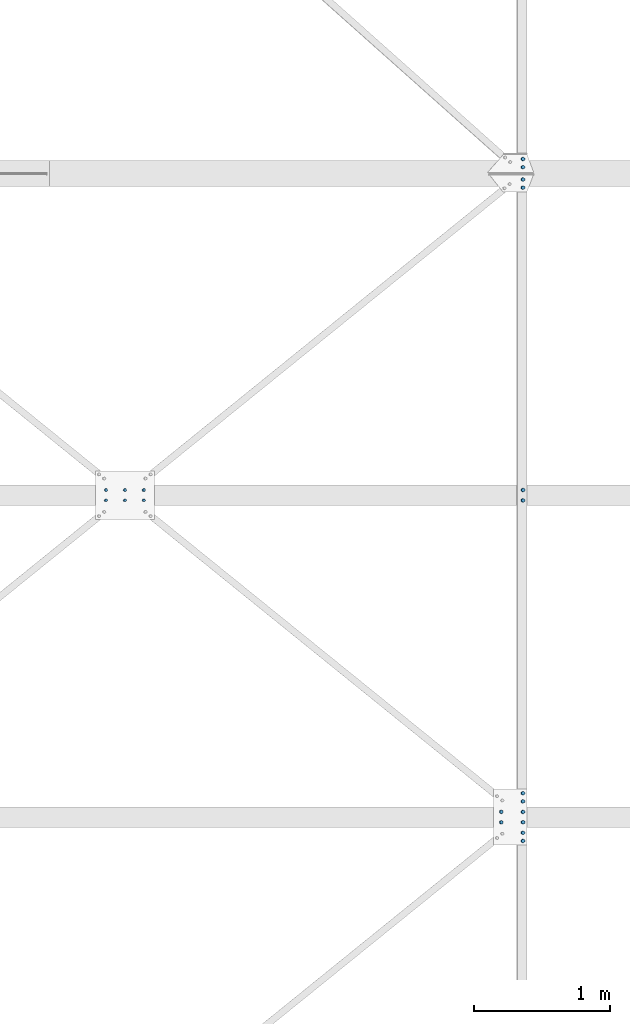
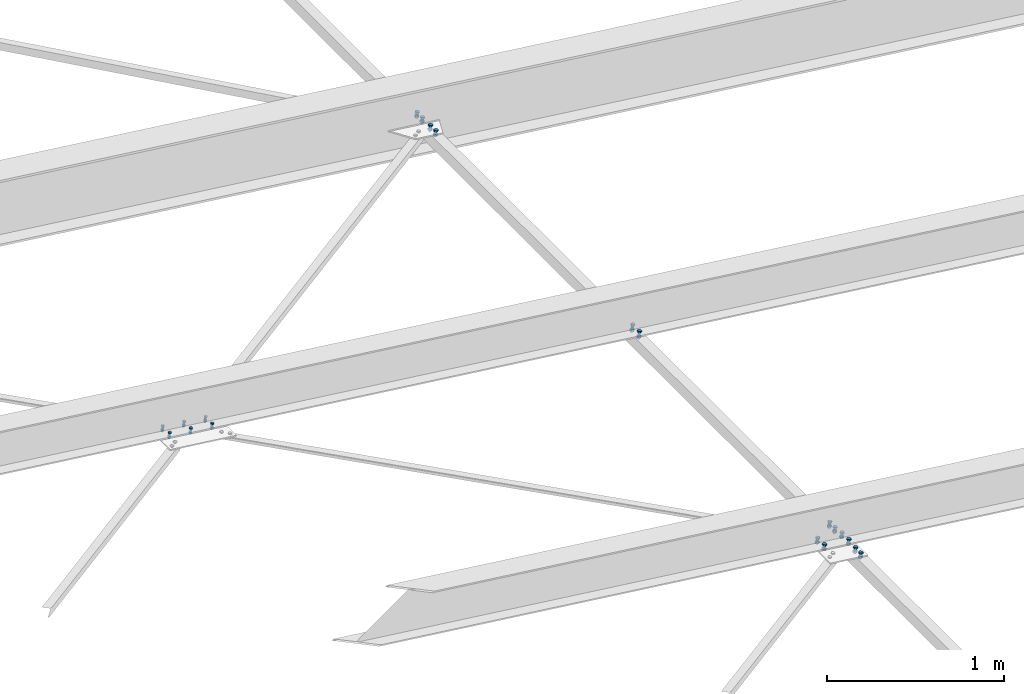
# One storey, part 150 of 3134: 7 mechanical fasteners, 5 elements without a shape of their own.
"""IFC2X3 building model written with IfcOpenShell, lengths in millimetres."""

from ifc_helpers import new_model, si_unit, frame, origin_with_axes, place, context, subcontext, project, spatial, faceted_brep, source, transform, mapped, material, type_object, element, aggregate, save


model = new_model("IFC2X3")

# Units and contexts
model_context = context("Model", 3, precision=1e-05, world=origin_with_axes())
body_context = subcontext(model_context, "Body", "Model", "MODEL_VIEW")
ifc_project = project(units=[si_unit("LENGTHUNIT", "METRE", prefix="MILLI"), si_unit("AREAUNIT", "SQUARE_METRE"), si_unit("VOLUMEUNIT", "CUBIC_METRE"), si_unit("MASSUNIT", "GRAM", prefix="KILO"), si_unit("TIMEUNIT", "SECOND"), si_unit("PLANEANGLEUNIT", "RADIAN"), si_unit("SOLIDANGLEUNIT", "STERADIAN"), si_unit("THERMODYNAMICTEMPERATUREUNIT", "DEGREE_CELSIUS"), si_unit("LUMINOUSINTENSITYUNIT", "LUMEN")], contexts=[model_context])

# Site, building, storey
site_placement = place(None, origin_with_axes())
site = spatial("IfcSite", under=ifc_project, at=site_placement, CompositionType="ELEMENT")
building_placement = place(site_placement, origin_with_axes())
building = spatial("IfcBuilding", under=site, at=building_placement, Name="Undefined", CompositionType="ELEMENT")
storey_placement = place(building_placement, origin_with_axes())
storey = spatial("IfcBuildingStorey", under=building, at=storey_placement, Name="Undefined", CompositionType="ELEMENT", Elevation=0.0)

# Assembly, mechanical fastener
assembly_1_placement = place(storey_placement, origin_with_axes())
assembly_1 = element("IfcElementAssembly", 1, at=assembly_1_placement, inside=storey, Name="300", AssemblyPlace="NOTDEFINED", PredefinedType="RIGID_FRAME")
ifc_material = material(Name="8.8")
mechanical_fastener_type = type_object("IfcMechanicalFastenerType", Name="Bolt assembly")
shared_shape_1 = source(origin_with_axes(), body_context, "Body", "Brep", [
    faceted_brep([(13.856406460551, -19.199990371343, 0.0), (6.92820323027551, -19.199990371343, 12.0), (-6.92820323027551, -19.199990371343, 12.0), (-13.856406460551, -19.199990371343, 1.69692038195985e-15), (-6.92820323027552, -19.199990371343, -12.0), (6.9282032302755, -19.199990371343, -12.0), (6.9282032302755, -9.19999037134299, -12.0), (-6.92820323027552, -9.19999037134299, -12.0), (-13.856406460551, -9.19999037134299, 1.69692038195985e-15), (-6.92820323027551, -9.19999037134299, 12.0), (6.92820323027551, -9.19999037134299, 12.0), (13.856406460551, -9.19999037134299, 0.0), (8.0, -9.19999037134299, 0.0), (6.92820323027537, -9.19999037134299, 4.00000000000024), (3.99999999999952, -9.19999037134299, 6.92820323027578), (-8.29068785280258e-13, -9.19999037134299, 8.0), (-4.00000000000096, -9.19999037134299, 6.92820323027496), (-6.9282032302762, -9.19999037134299, 3.99999999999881), (-8.0, -9.19999037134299, -1.65813757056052e-12), (-6.92820323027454, -9.19999037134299, -4.00000000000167), (-3.99999999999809, -9.19999037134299, -6.92820323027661), (2.47832457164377e-12, -9.19999037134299, -8.0), (4.00000000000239, -9.19999037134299, -6.92820323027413), (6.92820323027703, -9.19999037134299, -3.99999999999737), (6.92820323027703, 25.800009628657, -3.99999999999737), (4.00000000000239, 25.800009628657, -6.92820323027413), (2.47832457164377e-12, 25.800009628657, -8.0), (-3.99999999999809, 25.800009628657, -6.92820323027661), (-6.92820323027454, 25.800009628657, -4.00000000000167), (-8.0, 25.800009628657, -1.65813757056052e-12), (-6.9282032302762, 25.800009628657, 3.99999999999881), (-4.00000000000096, 25.800009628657, 6.92820323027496), (-8.29068785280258e-13, 25.800009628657, 8.0), (3.99999999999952, 25.800009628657, 6.92820323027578), (6.92820323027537, 25.800009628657, 4.00000000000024), (8.0, 25.800009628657, 0.0), (13.856406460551, 8.00000637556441, 0.0), (6.92820323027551, 8.00000637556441, 12.0), (-6.92820323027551, 8.00000637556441, 12.0), (-13.856406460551, 8.00000637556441, 1.69692038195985e-15), (-6.92820323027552, 8.00000637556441, -12.0), (6.9282032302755, 8.00000637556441, -12.0), (6.9282032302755, 21.0000063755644, -12.0), (-6.92820323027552, 21.0000063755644, -12.0), (-13.856406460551, 21.0000063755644, 1.69692038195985e-15), (-6.92820323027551, 21.0000063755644, 12.0), (6.92820323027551, 21.0000063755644, 12.0), (13.856406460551, 21.0000063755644, 0.0)], [[[0, 1, 2, 3, 4, 5]], [[6, 7, 8, 9, 10, 11]], [[0, 11, 10, 1]], [[1, 10, 9, 2]], [[2, 9, 8, 3]], [[3, 8, 7, 4]], [[4, 7, 6, 5]], [[5, 6, 11, 0]], [[12, 13, 14, 15, 16, 17, 18, 19, 20, 21, 22, 23]], [[24, 25, 26, 27, 28, 29, 30, 31, 32, 33, 34, 35]], [[12, 35, 34, 13]], [[13, 34, 33, 14]], [[14, 33, 32, 15]], [[15, 32, 31, 16]], [[16, 31, 30, 17]], [[17, 30, 29, 18]], [[18, 29, 28, 19]], [[19, 28, 27, 20]], [[20, 27, 26, 21]], [[21, 26, 25, 22]], [[22, 25, 24, 23]], [[23, 24, 35, 12]], [[36, 37, 38, 39, 40, 41]], [[42, 43, 44, 45, 46, 47]], [[36, 47, 46, 37]], [[37, 46, 45, 38]], [[38, 45, 44, 39]], [[39, 44, 43, 40]], [[40, 43, 42, 41]], [[41, 42, 47, 36]]]),
    faceted_brep([(9.0, -0.1, 0.0), (7.79422863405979, -0.1, 4.50000000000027), (4.49999999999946, -0.1, 7.79422863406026), (-9.3270238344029e-13, -0.1, 9.0), (-4.50000000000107, -0.1, 7.79422863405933), (-7.79422863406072, -0.1, 4.49999999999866), (-9.0, -0.1, -1.86540476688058e-12), (-7.79422863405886, -0.1, -4.50000000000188), (-4.49999999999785, -0.1, -7.79422863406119), (2.78811514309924e-12, -0.1, -9.0), (4.50000000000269, -0.1, -7.7942286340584), (7.79422863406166, -0.1, -4.49999999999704), (7.79422863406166, 8.00000000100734, -4.49999999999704), (4.50000000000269, 8.00000000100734, -7.7942286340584), (2.78811514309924e-12, 8.00000000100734, -9.0), (-4.49999999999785, 8.00000000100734, -7.79422863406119), (-7.79422863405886, 8.00000000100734, -4.50000000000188), (-9.0, 8.00000000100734, -1.86540476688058e-12), (-7.79422863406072, 8.00000000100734, 4.49999999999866), (-4.50000000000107, 8.00000000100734, 7.79422863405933), (-9.3270238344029e-13, 8.00000000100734, 9.0), (4.49999999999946, 8.00000000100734, 7.79422863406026), (7.79422863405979, 8.00000000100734, 4.50000000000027), (9.0, 8.00000000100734, 0.0), (9.0, -9.09999037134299, 0.0), (7.79422863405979, -9.09999037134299, 4.50000000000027), (4.49999999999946, -9.09999037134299, 7.79422863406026), (-9.3270238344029e-13, -9.09999037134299, 9.0), (-4.50000000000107, -9.09999037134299, 7.79422863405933), (-7.79422863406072, -9.09999037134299, 4.49999999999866), (-9.0, -9.09999037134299, -1.86540476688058e-12), (-7.79422863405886, -9.09999037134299, -4.50000000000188), (-4.49999999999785, -9.09999037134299, -7.79422863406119), (2.78811514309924e-12, -9.09999037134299, -9.0), (4.50000000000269, -9.09999037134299, -7.7942286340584), (7.79422863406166, -9.09999037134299, -4.49999999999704), (7.79422863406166, 0.100000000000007, -4.49999999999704), (4.50000000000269, 0.100000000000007, -7.7942286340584), (2.78811514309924e-12, 0.100000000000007, -9.0), (-4.49999999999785, 0.100000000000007, -7.79422863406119), (-7.79422863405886, 0.100000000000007, -4.50000000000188), (-9.0, 0.100000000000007, -1.86540476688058e-12), (-7.79422863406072, 0.100000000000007, 4.49999999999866), (-4.50000000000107, 0.100000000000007, 7.79422863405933), (-9.3270238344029e-13, 0.100000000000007, 9.0), (4.49999999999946, 0.100000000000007, 7.79422863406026), (7.79422863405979, 0.100000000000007, 4.50000000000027), (9.0, 0.100000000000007, 0.0)], [[[0, 1, 2, 3, 4, 5, 6, 7, 8, 9, 10, 11]], [[12, 13, 14, 15, 16, 17, 18, 19, 20, 21, 22, 23]], [[0, 23, 22, 1]], [[1, 22, 21, 2]], [[2, 21, 20, 3]], [[3, 20, 19, 4]], [[4, 19, 18, 5]], [[5, 18, 17, 6]], [[6, 17, 16, 7]], [[7, 16, 15, 8]], [[8, 15, 14, 9]], [[9, 14, 13, 10]], [[10, 13, 12, 11]], [[11, 12, 23, 0]], [[24, 25, 26, 27, 28, 29, 30, 31, 32, 33, 34, 35]], [[36, 37, 38, 39, 40, 41, 42, 43, 44, 45, 46, 47]], [[24, 47, 46, 25]], [[25, 46, 45, 26]], [[26, 45, 44, 27]], [[27, 44, 43, 28]], [[28, 43, 42, 29]], [[29, 42, 41, 30]], [[30, 41, 40, 31]], [[31, 40, 39, 32]], [[32, 39, 38, 33]], [[33, 38, 37, 34]], [[34, 37, 36, 35]], [[35, 36, 47, 24]]]),
])
mechanical_fastener_1_placement = place(assembly_1_placement, frame((49958.5751064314, 14692.0, 4816.43281405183), z_axis=(-0.992623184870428, 0.0, 0.121240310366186), x_axis=(0.0, 1.0, 0.0)))
mechanical_fastener_1 = element("IfcMechanicalFastener", 2, at=mechanical_fastener_1_placement, type_object=mechanical_fastener_type, material=ifc_material, Name="Bolt assembly", NominalDiameter=16.0, NominalLength=35.0, context=body_context, shape_type="MappedRepresentation", body=[
    mapped(shared_shape_1, transform((0.0, -5.32963895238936e-10, -79.9999999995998))),
    mapped(shared_shape_1, transform((76.0, -5.32963895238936e-10, -79.9999999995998))),
    mapped(shared_shape_1, transform((0.0, 5.3114490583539e-10, 79.9999999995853))),
    mapped(shared_shape_1, transform((76.0, 5.3114490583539e-10, 79.9999999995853))),
])
aggregate(assembly_1, [mechanical_fastener_1])

assembly_2_placement = place(storey_placement, origin_with_axes())
assembly_2 = element("IfcElementAssembly", 3, at=assembly_2_placement, inside=storey, AssemblyPlace="NOTDEFINED", PredefinedType="RIGID_FRAME")
shared_shape_2 = source(origin_with_axes(), body_context, "Body", "Brep", [
    faceted_brep([(13.856406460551, -19.199990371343, 0.0), (6.92820323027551, -19.199990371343, 12.0), (-6.92820323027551, -19.199990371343, 12.0), (-13.856406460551, -19.199990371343, 1.69692038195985e-15), (-6.92820323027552, -19.199990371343, -12.0), (6.9282032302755, -19.199990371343, -12.0), (6.9282032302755, -9.19999037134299, -12.0), (-6.92820323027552, -9.19999037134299, -12.0), (-13.856406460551, -9.19999037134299, 1.69692038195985e-15), (-6.92820323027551, -9.19999037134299, 12.0), (6.92820323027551, -9.19999037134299, 12.0), (13.856406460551, -9.19999037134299, 0.0), (8.0, -9.19999037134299, 0.0), (6.92820323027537, -9.19999037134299, 4.00000000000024), (3.99999999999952, -9.19999037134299, 6.92820323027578), (-8.29068785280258e-13, -9.19999037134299, 8.0), (-4.00000000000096, -9.19999037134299, 6.92820323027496), (-6.9282032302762, -9.19999037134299, 3.99999999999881), (-8.0, -9.19999037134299, -1.65813757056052e-12), (-6.92820323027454, -9.19999037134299, -4.00000000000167), (-3.99999999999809, -9.19999037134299, -6.92820323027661), (2.47832457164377e-12, -9.19999037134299, -8.0), (4.00000000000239, -9.19999037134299, -6.92820323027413), (6.92820323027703, -9.19999037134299, -3.99999999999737), (6.92820323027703, 35.8000002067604, -3.99999999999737), (4.00000000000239, 35.8000002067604, -6.92820323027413), (2.47832457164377e-12, 35.8000002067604, -8.0), (-3.99999999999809, 35.8000002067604, -6.92820323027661), (-6.92820323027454, 35.8000002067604, -4.00000000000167), (-8.0, 35.8000002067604, -1.65813757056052e-12), (-6.9282032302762, 35.8000002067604, 3.99999999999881), (-4.00000000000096, 35.8000002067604, 6.92820323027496), (-8.29068785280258e-13, 35.8000002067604, 8.0), (3.99999999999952, 35.8000002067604, 6.92820323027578), (6.92820323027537, 35.8000002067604, 4.00000000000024), (8.0, 35.8000002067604, 0.0), (13.856406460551, 14.9999995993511, 0.0), (6.92820323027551, 14.9999995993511, 12.0), (-6.92820323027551, 14.9999995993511, 12.0), (-13.856406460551, 14.9999995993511, 1.69692038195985e-15), (-6.92820323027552, 14.9999995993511, -12.0), (6.9282032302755, 14.9999995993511, -12.0), (6.9282032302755, 27.9999995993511, -12.0), (-6.92820323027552, 27.9999995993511, -12.0), (-13.856406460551, 27.9999995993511, 1.69692038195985e-15), (-6.92820323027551, 27.9999995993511, 12.0), (6.92820323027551, 27.9999995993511, 12.0), (13.856406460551, 27.9999995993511, 0.0)], [[[0, 1, 2, 3, 4, 5]], [[6, 7, 8, 9, 10, 11]], [[0, 11, 10, 1]], [[1, 10, 9, 2]], [[2, 9, 8, 3]], [[3, 8, 7, 4]], [[4, 7, 6, 5]], [[5, 6, 11, 0]], [[12, 13, 14, 15, 16, 17, 18, 19, 20, 21, 22, 23]], [[24, 25, 26, 27, 28, 29, 30, 31, 32, 33, 34, 35]], [[12, 35, 34, 13]], [[13, 34, 33, 14]], [[14, 33, 32, 15]], [[15, 32, 31, 16]], [[16, 31, 30, 17]], [[17, 30, 29, 18]], [[18, 29, 28, 19]], [[19, 28, 27, 20]], [[20, 27, 26, 21]], [[21, 26, 25, 22]], [[22, 25, 24, 23]], [[23, 24, 35, 12]], [[36, 37, 38, 39, 40, 41]], [[42, 43, 44, 45, 46, 47]], [[36, 47, 46, 37]], [[37, 46, 45, 38]], [[38, 45, 44, 39]], [[39, 44, 43, 40]], [[40, 43, 42, 41]], [[41, 42, 47, 36]]]),
    faceted_brep([(9.0, -9.09999037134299, 0.0), (7.79422863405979, -9.09999037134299, 4.50000000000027), (4.49999999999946, -9.09999037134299, 7.79422863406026), (-9.3270238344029e-13, -9.09999037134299, 9.0), (-4.50000000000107, -9.09999037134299, 7.79422863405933), (-7.79422863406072, -9.09999037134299, 4.49999999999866), (-9.0, -9.09999037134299, -1.86540476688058e-12), (-7.79422863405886, -9.09999037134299, -4.50000000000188), (-4.49999999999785, -9.09999037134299, -7.79422863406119), (2.78811514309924e-12, -9.09999037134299, -9.0), (4.50000000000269, -9.09999037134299, -7.7942286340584), (7.79422863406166, -9.09999037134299, -4.49999999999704), (7.79422863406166, 0.100000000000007, -4.49999999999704), (4.50000000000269, 0.100000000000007, -7.7942286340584), (2.78811514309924e-12, 0.100000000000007, -9.0), (-4.49999999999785, 0.100000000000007, -7.79422863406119), (-7.79422863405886, 0.100000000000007, -4.50000000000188), (-9.0, 0.100000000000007, -1.86540476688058e-12), (-7.79422863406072, 0.100000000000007, 4.49999999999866), (-4.50000000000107, 0.100000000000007, 7.79422863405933), (-9.3270238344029e-13, 0.100000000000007, 9.0), (4.49999999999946, 0.100000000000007, 7.79422863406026), (7.79422863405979, 0.100000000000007, 4.50000000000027), (9.0, 0.100000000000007, 0.0), (9.0, 7.9, 0.0), (7.79422863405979, 7.9, 4.50000000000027), (4.49999999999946, 7.9, 7.79422863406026), (-9.3270238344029e-13, 7.9, 9.0), (-4.50000000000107, 7.9, 7.79422863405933), (-7.79422863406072, 7.9, 4.49999999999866), (-9.0, 7.9, -1.86540476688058e-12), (-7.79422863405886, 7.9, -4.50000000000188), (-4.49999999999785, 7.9, -7.79422863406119), (2.78811514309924e-12, 7.9, -9.0), (4.50000000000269, 7.9, -7.7942286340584), (7.79422863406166, 7.9, -4.49999999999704), (7.79422863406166, 14.9999995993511, -4.49999999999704), (4.50000000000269, 14.9999995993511, -7.7942286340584), (2.78811514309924e-12, 14.9999995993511, -9.0), (-4.49999999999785, 14.9999995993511, -7.79422863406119), (-7.79422863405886, 14.9999995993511, -4.50000000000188), (-9.0, 14.9999995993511, -1.86540476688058e-12), (-7.79422863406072, 14.9999995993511, 4.49999999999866), (-4.50000000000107, 14.9999995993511, 7.79422863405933), (-9.3270238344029e-13, 14.9999995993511, 9.0), (4.49999999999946, 14.9999995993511, 7.79422863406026), (7.79422863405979, 14.9999995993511, 4.50000000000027), (9.0, 14.9999995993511, 0.0)], [[[0, 1, 2, 3, 4, 5, 6, 7, 8, 9, 10, 11]], [[12, 13, 14, 15, 16, 17, 18, 19, 20, 21, 22, 23]], [[0, 23, 22, 1]], [[1, 22, 21, 2]], [[2, 21, 20, 3]], [[3, 20, 19, 4]], [[4, 19, 18, 5]], [[5, 18, 17, 6]], [[6, 17, 16, 7]], [[7, 16, 15, 8]], [[8, 15, 14, 9]], [[9, 14, 13, 10]], [[10, 13, 12, 11]], [[11, 12, 23, 0]], [[24, 25, 26, 27, 28, 29, 30, 31, 32, 33, 34, 35]], [[36, 37, 38, 39, 40, 41, 42, 43, 44, 45, 46, 47]], [[24, 47, 46, 25]], [[25, 46, 45, 26]], [[26, 45, 44, 27]], [[27, 44, 43, 28]], [[28, 43, 42, 29]], [[29, 42, 41, 30]], [[30, 41, 40, 31]], [[31, 40, 39, 32]], [[32, 39, 38, 33]], [[33, 38, 37, 34]], [[34, 37, 36, 35]], [[35, 36, 47, 24]]]),
])
mechanical_fastener_2_placement = place(assembly_2_placement, frame((50037.984961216, 17052.0, 4806.73358921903), z_axis=(-0.992623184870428, 0.0, 0.121240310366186), x_axis=(0.0, 1.0, 0.0)))
mechanical_fastener_2 = element("IfcMechanicalFastener", 4, at=mechanical_fastener_2_placement, type_object=mechanical_fastener_type, material=ifc_material, Name="Bolt assembly", NominalDiameter=16.0, NominalLength=45.0, context=body_context, shape_type="MappedRepresentation", body=[
    mapped(shared_shape_2, transform((0.0, 0.0, 0.0))),
    mapped(shared_shape_2, transform((76.0, 0.0, 0.0))),
])
aggregate(assembly_2, [mechanical_fastener_2])

# Assembly, mechanical fasteners
assembly_3_placement = place(storey_placement, origin_with_axes())
assembly_3 = element("IfcElementAssembly", 5, at=assembly_3_placement, inside=storey, Name="PL8", AssemblyPlace="NOTDEFINED", PredefinedType="RIGID_FRAME")
shared_shape_3 = source(origin_with_axes(), body_context, "Body", "Brep", [
    faceted_brep([(13.856406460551, -10.0, 0.0), (6.92820323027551, -10.0, 12.0), (-6.92820323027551, -10.0, 12.0), (-13.856406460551, -10.0, 1.69692038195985e-15), (-6.92820323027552, -10.0, -12.0), (6.9282032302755, -10.0, -12.0), (6.9282032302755, 0.0, -12.0), (-6.92820323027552, 0.0, -12.0), (-13.856406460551, 0.0, 1.69692038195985e-15), (-6.92820323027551, 0.0, 12.0), (6.92820323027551, 0.0, 12.0), (13.856406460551, 0.0, 0.0), (8.0, 0.0, 0.0), (6.92820323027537, 0.0, 4.00000000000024), (3.99999999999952, 0.0, 6.92820323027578), (-8.29068785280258e-13, 0.0, 8.0), (-4.00000000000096, 0.0, 6.92820323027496), (-6.9282032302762, 0.0, 3.99999999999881), (-8.0, 0.0, -1.65813757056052e-12), (-6.92820323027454, 0.0, -4.00000000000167), (-3.99999999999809, 0.0, -6.92820323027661), (2.47832457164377e-12, 0.0, -8.0), (4.00000000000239, 0.0, -6.92820323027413), (6.92820323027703, 0.0, -3.99999999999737), (6.92820323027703, 35.0000000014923, -3.99999999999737), (4.00000000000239, 35.0000000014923, -6.92820323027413), (2.47832457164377e-12, 35.0000000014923, -8.0), (-3.99999999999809, 35.0000000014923, -6.92820323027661), (-6.92820323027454, 35.0000000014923, -4.00000000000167), (-8.0, 35.0000000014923, -1.65813757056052e-12), (-6.9282032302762, 35.0000000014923, 3.99999999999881), (-4.00000000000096, 35.0000000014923, 6.92820323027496), (-8.29068785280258e-13, 35.0000000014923, 8.0), (3.99999999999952, 35.0000000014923, 6.92820323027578), (6.92820323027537, 35.0000000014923, 4.00000000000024), (8.0, 35.0000000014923, 0.0), (13.856406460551, 14.9999995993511, 0.0), (6.92820323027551, 14.9999995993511, 12.0), (-6.92820323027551, 14.9999995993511, 12.0), (-13.856406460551, 14.9999995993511, 1.69692038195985e-15), (-6.92820323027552, 14.9999995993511, -12.0), (6.9282032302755, 14.9999995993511, -12.0), (6.9282032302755, 27.9999995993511, -12.0), (-6.92820323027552, 27.9999995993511, -12.0), (-13.856406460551, 27.9999995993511, 1.69692038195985e-15), (-6.92820323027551, 27.9999995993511, 12.0), (6.92820323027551, 27.9999995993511, 12.0), (13.856406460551, 27.9999995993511, 0.0)], [[[0, 1, 2, 3, 4, 5]], [[6, 7, 8, 9, 10, 11]], [[0, 11, 10, 1]], [[1, 10, 9, 2]], [[2, 9, 8, 3]], [[3, 8, 7, 4]], [[4, 7, 6, 5]], [[5, 6, 11, 0]], [[12, 13, 14, 15, 16, 17, 18, 19, 20, 21, 22, 23]], [[24, 25, 26, 27, 28, 29, 30, 31, 32, 33, 34, 35]], [[12, 35, 34, 13]], [[13, 34, 33, 14]], [[14, 33, 32, 15]], [[15, 32, 31, 16]], [[16, 31, 30, 17]], [[17, 30, 29, 18]], [[18, 29, 28, 19]], [[19, 28, 27, 20]], [[20, 27, 26, 21]], [[21, 26, 25, 22]], [[22, 25, 24, 23]], [[23, 24, 35, 12]], [[36, 37, 38, 39, 40, 41]], [[42, 43, 44, 45, 46, 47]], [[36, 47, 46, 37]], [[37, 46, 45, 38]], [[38, 45, 44, 39]], [[39, 44, 43, 40]], [[40, 43, 42, 41]], [[41, 42, 47, 36]]]),
    faceted_brep([(9.0, 7.9, 0.0), (7.79422863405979, 7.9, 4.50000000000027), (4.49999999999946, 7.9, 7.79422863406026), (-9.3270238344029e-13, 7.9, 9.0), (-4.50000000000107, 7.9, 7.79422863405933), (-7.79422863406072, 7.9, 4.49999999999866), (-9.0, 7.9, -1.86540476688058e-12), (-7.79422863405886, 7.9, -4.50000000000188), (-4.49999999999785, 7.9, -7.79422863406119), (2.78811514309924e-12, 7.9, -9.0), (4.50000000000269, 7.9, -7.7942286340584), (7.79422863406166, 7.9, -4.49999999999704), (7.79422863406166, 14.9999995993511, -4.49999999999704), (4.50000000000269, 14.9999995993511, -7.7942286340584), (2.78811514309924e-12, 14.9999995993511, -9.0), (-4.49999999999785, 14.9999995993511, -7.79422863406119), (-7.79422863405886, 14.9999995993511, -4.50000000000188), (-9.0, 14.9999995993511, -1.86540476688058e-12), (-7.79422863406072, 14.9999995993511, 4.49999999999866), (-4.50000000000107, 14.9999995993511, 7.79422863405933), (-9.3270238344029e-13, 14.9999995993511, 9.0), (4.49999999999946, 14.9999995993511, 7.79422863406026), (7.79422863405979, 14.9999995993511, 4.50000000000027), (9.0, 14.9999995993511, 0.0), (9.0, 0.100000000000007, 0.0), (7.79422863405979, 0.100000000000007, 4.50000000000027), (4.49999999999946, 0.100000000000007, 7.79422863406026), (-9.3270238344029e-13, 0.100000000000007, 9.0), (-4.50000000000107, 0.100000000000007, 7.79422863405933), (-7.79422863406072, 0.100000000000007, 4.49999999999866), (-9.0, 0.100000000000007, -1.86540476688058e-12), (-7.79422863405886, 0.100000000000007, -4.50000000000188), (-4.49999999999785, 0.100000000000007, -7.79422863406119), (2.78811514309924e-12, 0.100000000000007, -9.0), (4.50000000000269, 0.100000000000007, -7.7942286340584), (7.79422863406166, 0.100000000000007, -4.49999999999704), (7.79422863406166, 8.1, -4.49999999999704), (4.50000000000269, 8.1, -7.7942286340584), (2.78811514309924e-12, 8.1, -9.0), (-4.49999999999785, 8.1, -7.79422863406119), (-7.79422863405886, 8.1, -4.50000000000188), (-9.0, 8.1, -1.86540476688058e-12), (-7.79422863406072, 8.1, 4.49999999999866), (-4.50000000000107, 8.1, 7.79422863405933), (-9.3270238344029e-13, 8.1, 9.0), (4.49999999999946, 8.1, 7.79422863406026), (7.79422863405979, 8.1, 4.50000000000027), (9.0, 8.1, 0.0)], [[[0, 1, 2, 3, 4, 5, 6, 7, 8, 9, 10, 11]], [[12, 13, 14, 15, 16, 17, 18, 19, 20, 21, 22, 23]], [[0, 23, 22, 1]], [[1, 22, 21, 2]], [[2, 21, 20, 3]], [[3, 20, 19, 4]], [[4, 19, 18, 5]], [[5, 18, 17, 6]], [[6, 17, 16, 7]], [[7, 16, 15, 8]], [[8, 15, 14, 9]], [[9, 14, 13, 10]], [[10, 13, 12, 11]], [[11, 12, 23, 0]], [[24, 25, 26, 27, 28, 29, 30, 31, 32, 33, 34, 35]], [[36, 37, 38, 39, 40, 41, 42, 43, 44, 45, 46, 47]], [[24, 47, 46, 25]], [[25, 46, 45, 26]], [[26, 45, 44, 27]], [[27, 44, 43, 28]], [[28, 43, 42, 29]], [[29, 42, 41, 30]], [[30, 41, 40, 31]], [[31, 40, 39, 32]], [[32, 39, 38, 33]], [[33, 38, 37, 34]], [[34, 37, 36, 35]], [[35, 36, 47, 24]]]),
])
mechanical_fastener_3_placement = place(assembly_3_placement, frame((50037.9849612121, 14615.0, 4806.73358922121), z_axis=(0.992623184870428, 0.0, -0.121240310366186), x_axis=(0.0, -1.0, 0.0)))
mechanical_fastener_3 = element("IfcMechanicalFastener", 6, at=mechanical_fastener_3_placement, type_object=mechanical_fastener_type, material=ifc_material, Name="Bolt assembly", NominalDiameter=16.0, NominalLength=35.0, context=body_context, shape_type="MappedRepresentation", body=[
    mapped(shared_shape_3, transform((0.0, 0.0, 0.0))),
    mapped(shared_shape_3, transform((59.9999999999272, 0.0, 5.40239852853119e-10))),
])
mechanical_fastener_4_placement = place(assembly_3_placement, frame((50037.9849612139, 14905.0, 4806.73358922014), z_axis=(0.992623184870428, 0.0, -0.121240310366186), x_axis=(0.0, -1.0, 0.0)))
mechanical_fastener_4 = element("IfcMechanicalFastener", 7, at=mechanical_fastener_4_placement, type_object=mechanical_fastener_type, material=ifc_material, Name="Bolt assembly", NominalDiameter=16.0, NominalLength=35.0, context=body_context, shape_type="MappedRepresentation", body=[
    mapped(shared_shape_3, transform((0.0, 0.0, 0.0))),
    mapped(shared_shape_3, transform((59.9999999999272, 0.0, 5.40239852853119e-10))),
])
aggregate(assembly_3, [mechanical_fastener_3, mechanical_fastener_4])

assembly_4_placement = place(storey_placement, origin_with_axes())
assembly_4 = element("IfcElementAssembly", 8, at=assembly_4_placement, inside=storey, Name="IPE450", AssemblyPlace="NOTDEFINED", PredefinedType="RIGID_FRAME")
mechanical_fastener_5_placement = place(assembly_4_placement, frame((50037.9849611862, 19405.0, 4806.73358922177), z_axis=(0.992623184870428, 0.0, -0.121240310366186), x_axis=(0.0, -1.0, 0.0)))
mechanical_fastener_5 = element("IfcMechanicalFastener", 9, at=mechanical_fastener_5_placement, type_object=mechanical_fastener_type, material=ifc_material, Name="Bolt assembly", NominalDiameter=16.0, NominalLength=35.0, context=body_context, shape_type="MappedRepresentation", body=[
    mapped(shared_shape_3, transform((0.0, 0.0, 0.0))),
    mapped(shared_shape_3, transform((59.9999999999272, 0.0, 5.40239852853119e-10))),
])
mechanical_fastener_6_placement = place(assembly_4_placement, frame((50037.9849611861, 19495.0, 4806.73358922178), z_axis=(-0.992623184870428, 0.0, 0.121240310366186), x_axis=(0.0, 1.0, 0.0)))
mechanical_fastener_6 = element("IfcMechanicalFastener", 10, at=mechanical_fastener_6_placement, type_object=mechanical_fastener_type, material=ifc_material, Name="Bolt assembly", NominalDiameter=16.0, NominalLength=35.0, context=body_context, shape_type="MappedRepresentation", body=[
    mapped(shared_shape_3, transform((0.0, 0.0, 0.0))),
    mapped(shared_shape_3, transform((59.9999999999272, 0.0, 5.40239852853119e-10))),
])
aggregate(assembly_4, [mechanical_fastener_5, mechanical_fastener_6])

# Assembly, mechanical fastener
assembly_5_placement = place(storey_placement, origin_with_axes())
assembly_5 = element("IfcElementAssembly", 11, at=assembly_5_placement, inside=storey, Name="300", AssemblyPlace="NOTDEFINED", PredefinedType="RIGID_FRAME")
shared_shape_4 = source(origin_with_axes(), body_context, "Body", "Brep", [
    faceted_brep([(10.9696551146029, -17.1999998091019, 0.0), (5.48482755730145, -17.1999998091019, 9.5), (-5.48482755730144, -17.1999998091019, 9.5), (-10.9696551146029, -17.1999998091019, 1.34339530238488e-15), (-5.48482755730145, -17.1999998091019, -9.5), (5.48482755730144, -17.1999998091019, -9.50000000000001), (5.48482755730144, -9.19999978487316, -9.50000000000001), (-5.48482755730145, -9.19999978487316, -9.5), (-10.9696551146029, -9.19999978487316, 1.34339530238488e-15), (-5.48482755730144, -9.19999978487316, 9.5), (5.48482755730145, -9.19999978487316, 9.5), (10.9696551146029, -9.19999978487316, 0.0), (6.0, -9.19999978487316, 0.0), (5.19615242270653, -9.19999978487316, 3.00000000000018), (2.99999999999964, -9.19999978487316, 5.19615242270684), (-6.21801588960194e-13, -9.19999978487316, 6.0), (-3.00000000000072, -9.19999978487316, 5.19615242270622), (-5.19615242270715, -9.19999978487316, 2.9999999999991), (-6.0, -9.19999978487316, -1.24360317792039e-12), (-5.19615242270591, -9.19999978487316, -3.00000000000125), (-2.99999999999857, -9.19999978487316, -5.19615242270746), (1.85874342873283e-12, -9.19999978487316, -6.0), (3.00000000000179, -9.19999978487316, -5.1961524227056), (5.19615242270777, -9.19999978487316, -2.99999999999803), (5.19615242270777, 25.8000002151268, -2.99999999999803), (3.00000000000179, 25.8000002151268, -5.1961524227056), (1.85874342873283e-12, 25.8000002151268, -6.0), (-2.99999999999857, 25.8000002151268, -5.19615242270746), (-5.19615242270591, 25.8000002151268, -3.00000000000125), (-6.0, 25.8000002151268, -1.24360317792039e-12), (-5.19615242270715, 25.8000002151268, 2.9999999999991), (-3.00000000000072, 25.8000002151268, 5.19615242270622), (-6.21801588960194e-13, 25.8000002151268, 6.0), (2.99999999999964, 25.8000002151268, 5.19615242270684), (5.19615242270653, 25.8000002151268, 3.00000000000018), (6.0, 25.8000002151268, 0.0), (10.9696551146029, 8.0, 0.0), (5.48482755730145, 8.0, 9.5), (-5.48482755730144, 8.0, 9.5), (-10.9696551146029, 8.0, 1.34339530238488e-15), (-5.48482755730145, 8.0, -9.5), (5.48482755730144, 8.0, -9.50000000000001), (5.48482755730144, 18.0, -9.50000000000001), (-5.48482755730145, 18.0, -9.5), (-10.9696551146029, 18.0, 1.34339530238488e-15), (-5.48482755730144, 18.0, 9.5), (5.48482755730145, 18.0, 9.5), (10.9696551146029, 18.0, 0.0)], [[[0, 1, 2, 3, 4, 5]], [[6, 7, 8, 9, 10, 11]], [[0, 11, 10, 1]], [[1, 10, 9, 2]], [[2, 9, 8, 3]], [[3, 8, 7, 4]], [[4, 7, 6, 5]], [[5, 6, 11, 0]], [[12, 13, 14, 15, 16, 17, 18, 19, 20, 21, 22, 23]], [[24, 25, 26, 27, 28, 29, 30, 31, 32, 33, 34, 35]], [[12, 35, 34, 13]], [[13, 34, 33, 14]], [[14, 33, 32, 15]], [[15, 32, 31, 16]], [[16, 31, 30, 17]], [[17, 30, 29, 18]], [[18, 29, 28, 19]], [[19, 28, 27, 20]], [[20, 27, 26, 21]], [[21, 26, 25, 22]], [[22, 25, 24, 23]], [[23, 24, 35, 12]], [[36, 37, 38, 39, 40, 41]], [[42, 43, 44, 45, 46, 47]], [[36, 47, 46, 37]], [[37, 46, 45, 38]], [[38, 45, 44, 39]], [[39, 44, 43, 40]], [[40, 43, 42, 41]], [[41, 42, 47, 36]]]),
    faceted_brep([(7.0, -0.1, 0.0), (6.06217782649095, -0.1, 3.50000000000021), (3.49999999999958, -0.1, 6.06217782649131), (-7.25435187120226e-13, -0.1, 7.0), (-3.50000000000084, -0.1, 6.06217782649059), (-6.06217782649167, -0.1, 3.49999999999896), (-7.0, -0.1, -1.45087037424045e-12), (-6.06217782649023, -0.1, -3.50000000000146), (-3.49999999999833, -0.1, -6.06217782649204), (2.1685340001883e-12, -0.1, -7.0), (3.50000000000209, -0.1, -6.06217782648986), (6.0621778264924, -0.1, -3.4999999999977), (6.0621778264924, 8.0000000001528, -3.4999999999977), (3.50000000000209, 8.0000000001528, -6.06217782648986), (2.1685340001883e-12, 8.0000000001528, -7.0), (-3.49999999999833, 8.0000000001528, -6.06217782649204), (-6.06217782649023, 8.0000000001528, -3.50000000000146), (-7.0, 8.0000000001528, -1.45087037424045e-12), (-6.06217782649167, 8.0000000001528, 3.49999999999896), (-3.50000000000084, 8.0000000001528, 6.06217782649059), (-7.25435187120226e-13, 8.0000000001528, 7.0), (3.49999999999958, 8.0000000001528, 6.06217782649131), (6.06217782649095, 8.0000000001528, 3.50000000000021), (7.0, 8.0000000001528, 0.0), (7.0, -9.09999980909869, 0.0), (6.06217782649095, -9.09999980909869, 3.50000000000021), (3.49999999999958, -9.09999980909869, 6.06217782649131), (-7.25435187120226e-13, -9.09999980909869, 7.0), (-3.50000000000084, -9.09999980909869, 6.06217782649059), (-6.06217782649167, -9.09999980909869, 3.49999999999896), (-7.0, -9.09999980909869, -1.45087037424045e-12), (-6.06217782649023, -9.09999980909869, -3.50000000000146), (-3.49999999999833, -9.09999980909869, -6.06217782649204), (2.1685340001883e-12, -9.09999980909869, -7.0), (3.50000000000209, -9.09999980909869, -6.06217782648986), (6.0621778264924, -9.09999980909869, -3.4999999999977), (6.0621778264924, 0.0999999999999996, -3.4999999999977), (3.50000000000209, 0.0999999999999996, -6.06217782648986), (2.1685340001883e-12, 0.0999999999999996, -7.0), (-3.49999999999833, 0.0999999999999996, -6.06217782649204), (-6.06217782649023, 0.0999999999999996, -3.50000000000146), (-7.0, 0.0999999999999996, -1.45087037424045e-12), (-6.06217782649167, 0.0999999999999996, 3.49999999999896), (-3.50000000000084, 0.0999999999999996, 6.06217782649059), (-7.25435187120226e-13, 0.0999999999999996, 7.0), (3.49999999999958, 0.0999999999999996, 6.06217782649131), (6.06217782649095, 0.0999999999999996, 3.50000000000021), (7.0, 0.0999999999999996, 0.0)], [[[0, 1, 2, 3, 4, 5, 6, 7, 8, 9, 10, 11]], [[12, 13, 14, 15, 16, 17, 18, 19, 20, 21, 22, 23]], [[0, 23, 22, 1]], [[1, 22, 21, 2]], [[2, 21, 20, 3]], [[3, 20, 19, 4]], [[4, 19, 18, 5]], [[5, 18, 17, 6]], [[6, 17, 16, 7]], [[7, 16, 15, 8]], [[8, 15, 14, 9]], [[9, 14, 13, 10]], [[10, 13, 12, 11]], [[11, 12, 23, 0]], [[24, 25, 26, 27, 28, 29, 30, 31, 32, 33, 34, 35]], [[36, 37, 38, 39, 40, 41, 42, 43, 44, 45, 46, 47]], [[24, 47, 46, 25]], [[25, 46, 45, 26]], [[26, 45, 44, 27]], [[27, 44, 43, 28]], [[28, 43, 42, 29]], [[29, 42, 41, 30]], [[30, 41, 40, 31]], [[31, 40, 39, 32]], [[32, 39, 38, 33]], [[33, 38, 37, 34]], [[34, 37, 36, 35]], [[35, 36, 47, 24]]]),
])
mechanical_fastener_7_placement = place(assembly_5_placement, frame((47258.2022067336, 17090.0, 5146.25993623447), z_axis=(0.0, -1.0, 0.0), x_axis=(-0.992623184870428, 0.0, 0.121240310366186)))
mechanical_fastener_7 = element("IfcMechanicalFastener", 12, at=mechanical_fastener_7_placement, type_object=mechanical_fastener_type, material=ifc_material, Name="Bolt assembly", NominalDiameter=12.0, NominalLength=35.0, context=body_context, shape_type="MappedRepresentation", body=[
    mapped(shared_shape_4, transform((0.0, 0.0, -38.0))),
    mapped(shared_shape_4, transform((140.000000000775, 5.85714587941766e-10, -38.0))),
    mapped(shared_shape_4, transform((279.999999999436, -4.74756234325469e-10, -38.0))),
    mapped(shared_shape_4, transform((0.0, 0.0, 38.0))),
    mapped(shared_shape_4, transform((140.000000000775, 5.85714587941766e-10, 38.0))),
    mapped(shared_shape_4, transform((279.999999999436, -4.74756234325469e-10, 38.0))),
])
aggregate(assembly_5, [mechanical_fastener_7])

save(model, "model.ifc")
